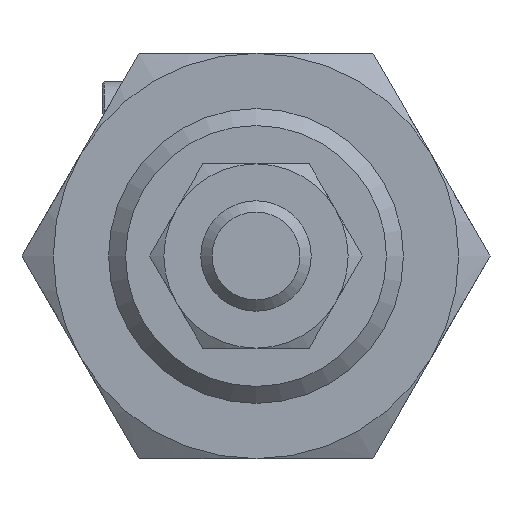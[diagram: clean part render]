
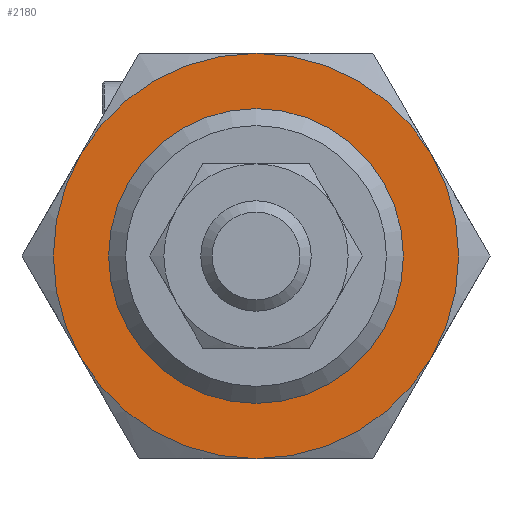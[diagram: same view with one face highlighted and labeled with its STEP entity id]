
A CAD part, left-side view. The second image highlights one B-rep face of the part: STEP entity #2180.
In plain terms, the highlighted planar face has unit normal (-1, 0, 0).
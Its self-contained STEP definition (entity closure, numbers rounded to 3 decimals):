
#756=ORIENTED_EDGE('',*,*,#1184,.T.);
#757=ORIENTED_EDGE('',*,*,#1189,.F.);
#758=ORIENTED_EDGE('',*,*,#1188,.F.);
#759=ORIENTED_EDGE('',*,*,#1190,.F.);
#760=ORIENTED_EDGE('',*,*,#1187,.F.);
#761=ORIENTED_EDGE('',*,*,#1186,.F.);
#762=ORIENTED_EDGE('',*,*,#1185,.F.);
#1184=EDGE_CURVE('',#1438,#1438,#1580,.T.);
#1185=EDGE_CURVE('',#1429,#1427,#1581,.T.);
#1186=EDGE_CURVE('',#1427,#1424,#1582,.T.);
#1187=EDGE_CURVE('',#1424,#1434,#1583,.T.);
#1188=EDGE_CURVE('',#1433,#1431,#1584,.T.);
#1189=EDGE_CURVE('',#1431,#1429,#1585,.T.);
#1190=EDGE_CURVE('',#1434,#1433,#1586,.T.);
#1424=VERTEX_POINT('',#3698);
#1427=VERTEX_POINT('',#3712);
#1429=VERTEX_POINT('',#3724);
#1431=VERTEX_POINT('',#3736);
#1433=VERTEX_POINT('',#3748);
#1434=VERTEX_POINT('',#3759);
#1438=VERTEX_POINT('',#3774);
#1580=CIRCLE('',#2405,8.);
#1581=CIRCLE('',#2407,11.);
#1582=CIRCLE('',#2409,11.);
#1583=CIRCLE('',#2411,11.);
#1584=CIRCLE('',#2413,11.);
#1585=CIRCLE('',#2415,11.);
#1586=CIRCLE('',#2417,11.);
#1747=EDGE_LOOP('',(#756));
#1748=EDGE_LOOP('',(#757,#758,#759,#760,#761,#762));
#1947=FACE_BOUND('',#1747,.T.);
#1948=FACE_BOUND('',#1748,.T.);
#2064=PLANE('',#2416);
#2180=ADVANCED_FACE('',(#1947,#1948),#2064,.F.);
#2405=AXIS2_PLACEMENT_3D('',#3773,#2897,#2898);
#2407=AXIS2_PLACEMENT_3D('',#3776,#2901,#2902);
#2409=AXIS2_PLACEMENT_3D('',#3778,#2905,#2906);
#2411=AXIS2_PLACEMENT_3D('',#3780,#2909,#2910);
#2413=AXIS2_PLACEMENT_3D('',#3782,#2913,#2914);
#2415=AXIS2_PLACEMENT_3D('',#3784,#2917,#2918);
#2416=AXIS2_PLACEMENT_3D('',#3785,#2919,#2920);
#2417=AXIS2_PLACEMENT_3D('',#3786,#2921,#2922);
#2897=DIRECTION('',(1.,0.,0.));
#2898=DIRECTION('',(0.,0.,-1.));
#2901=DIRECTION('',(1.,0.,0.));
#2902=DIRECTION('',(0.,0.,-1.));
#2905=DIRECTION('',(1.,0.,0.));
#2906=DIRECTION('',(0.,0.,-1.));
#2909=DIRECTION('',(1.,0.,0.));
#2910=DIRECTION('',(0.,0.,-1.));
#2913=DIRECTION('',(1.,0.,0.));
#2914=DIRECTION('',(0.,0.,-1.));
#2917=DIRECTION('',(1.,0.,0.));
#2918=DIRECTION('',(0.,0.,-1.));
#2919=DIRECTION('',(1.,0.,0.));
#2920=DIRECTION('',(0.,0.,-1.));
#2921=DIRECTION('',(1.,0.,0.));
#2922=DIRECTION('',(0.,0.,-1.));
#3698=CARTESIAN_POINT('',(-10.,0.,11.));
#3712=CARTESIAN_POINT('',(-10.,9.526,5.5));
#3724=CARTESIAN_POINT('',(-10.,9.526,-5.5));
#3736=CARTESIAN_POINT('',(-10.,0.,-11.));
#3748=CARTESIAN_POINT('',(-10.,-9.526,-5.5));
#3759=CARTESIAN_POINT('',(-10.,-9.526,5.5));
#3773=CARTESIAN_POINT('',(-10.,0.,0.));
#3774=CARTESIAN_POINT('',(-10.,0.,-8.));
#3776=CARTESIAN_POINT('',(-10.,0.,0.));
#3778=CARTESIAN_POINT('',(-10.,0.,0.));
#3780=CARTESIAN_POINT('',(-10.,0.,0.));
#3782=CARTESIAN_POINT('',(-10.,0.,0.));
#3784=CARTESIAN_POINT('',(-10.,0.,0.));
#3785=CARTESIAN_POINT('',(-10.,0.,0.));
#3786=CARTESIAN_POINT('',(-10.,0.,0.));
